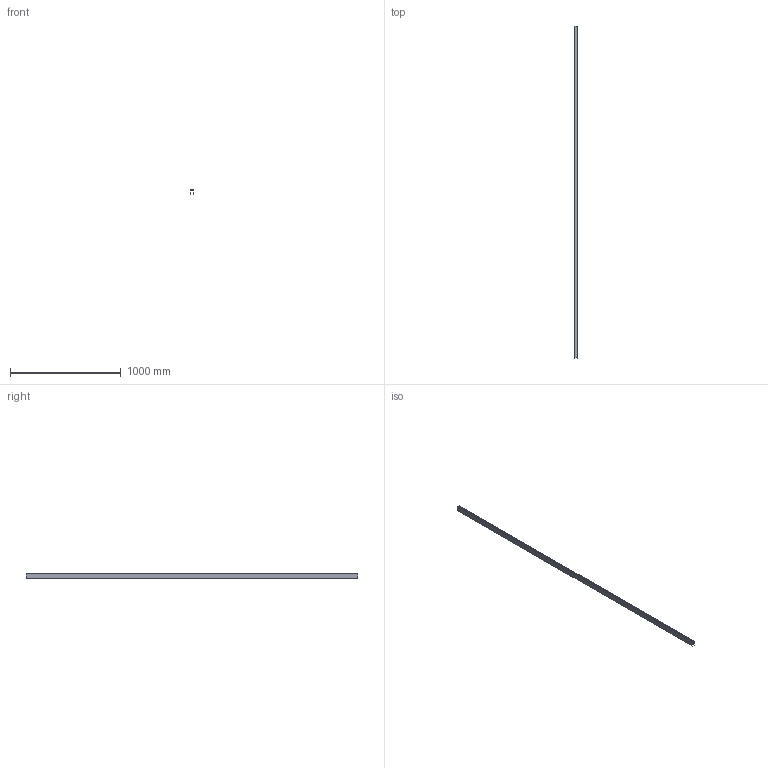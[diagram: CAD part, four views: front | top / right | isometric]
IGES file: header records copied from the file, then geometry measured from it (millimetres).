
Start section: Data from Parasolid IGES Translator 20.0.26, Copyright(c) 2006 Siemens P LM Software. All Rights Reserved.
Global section: file name: 9298810.igs; native system: By Siemens PLM Incorporated; preprocessor: XPlus GENERIC/IGES 20.0.26; author: Noname; organization: Noname; date: 20210823.112542; units: millimetre
Bounding box: 25.4 x 3000 x 40 mm (x, y, z)
Surface area: 701382.1 mm2 (no closed solid volume)
Topology: 0 solids, 0 shells, 25 faces, 138 edges, 138 vertices
Faces by surface type: extrusion 25
